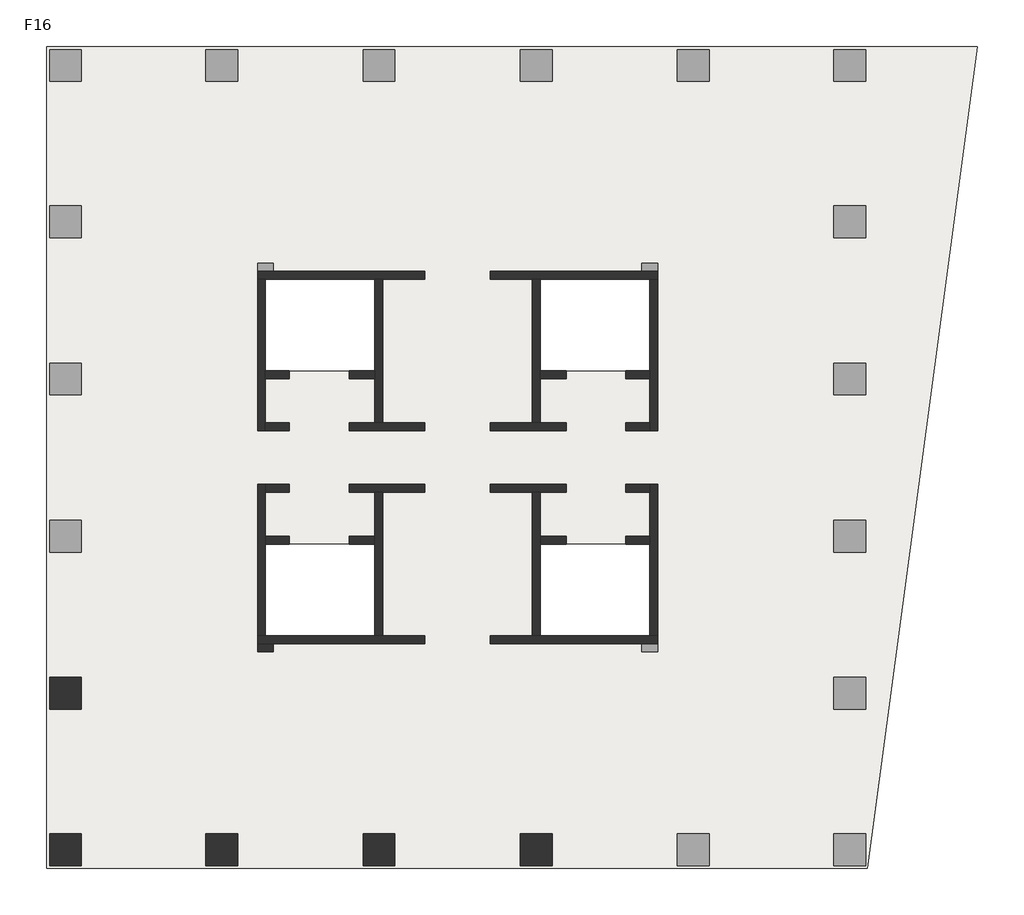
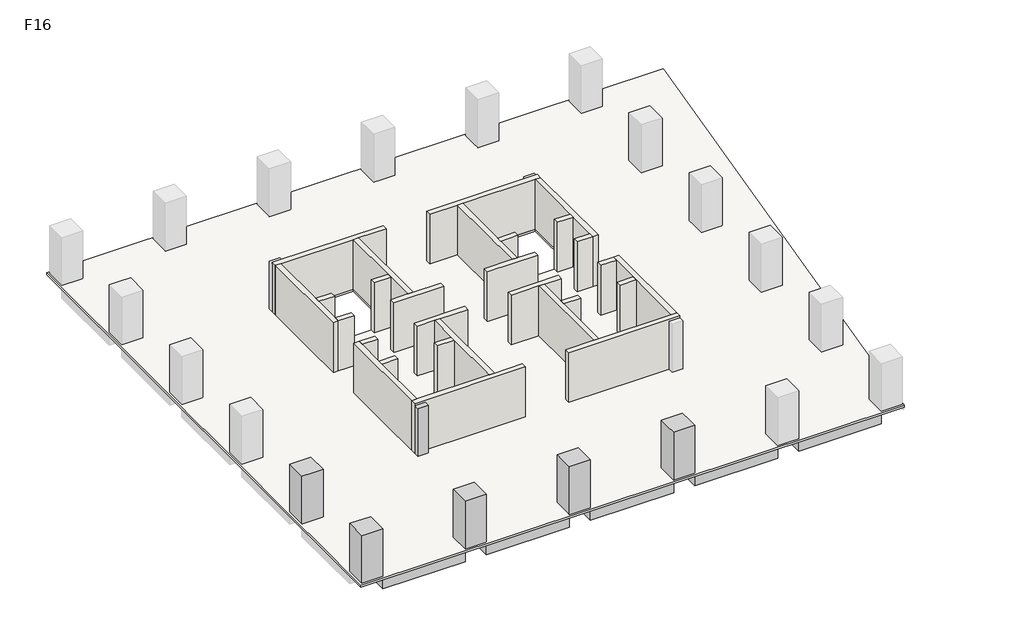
# One storey, part 1 of 2: 28 walls, 6 columns, 5 beams, 1 slab.
"""IFC4 building model written with IfcOpenShell, lengths in millimetres."""

from ifc_helpers import new_model, si_unit, frame, origin, place, context, project, spatial, polyline, outline, extrude, faceted_brep, element, save

model = new_model("IFC4")

# Units and contexts
model_context = context("Model", 3, world=origin())
ifc_project = project(units=[si_unit("LENGTHUNIT", "METRE", prefix="MILLI")], contexts=[model_context])

# Site, building, storey
site = spatial("IfcSite", under=ifc_project)
building = spatial("IfcBuilding", under=site)
storey = spatial("IfcBuildingStorey", under=building, Name="F16", Elevation=64000.0)

# Beams
placement = place(None, origin())
element("IfcBeam", 1, ObjectType="混凝土 - 矩形梁 : KL(5)-800x1000", at=placement, inside=storey, context=model_context, shape_type="SweptSolid", body=[
    extrude(outline(polyline([(-12472.6742169, -13948.9501342), (-12472.6742169, -13148.9501342), (-6222.6742169, -13148.9501342), (-6222.6742169, -13948.9501342), (-12472.6742169, -13948.9501342)])), frame((0.0, 0.0, 63000.0), z_axis=(0.0, 0.0, 1.0), x_axis=(1.0, 0.0, 0.0)), (0.0, 0.0, 1.0), 840.0),
    extrude(outline(polyline([(25327.3257831, -13148.9501342), (25327.3257831, -13948.9501342), (19077.3257831, -13948.9501342), (19077.3257831, -13148.9501342), (25327.3257831, -13148.9501342)])), frame((0.0, 0.0, 63000.0), z_axis=(0.0, 0.0, 1.0), x_axis=(1.0, 0.0, 0.0)), (0.0, 0.0, 1.0), 840.0),
    extrude(outline(polyline([(-4622.6742169, -13948.9501342), (-4622.6742169, -13148.9501342), (1677.3257831, -13148.9501342), (1677.3257831, -13948.9501342), (-4622.6742169, -13948.9501342)])), frame((0.0, 0.0, 63000.0), z_axis=(0.0, 0.0, 1.0), x_axis=(1.0, 0.0, 0.0)), (0.0, 0.0, 1.0), 840.0),
    extrude(outline(polyline([(3277.3257831, -13948.9501342), (3277.3257831, -13148.9501342), (9577.3257831, -13148.9501342), (9577.3257831, -13948.9501342), (3277.3257831, -13948.9501342)])), frame((0.0, 0.0, 63000.0), z_axis=(0.0, 0.0, 1.0), x_axis=(1.0, 0.0, 0.0)), (0.0, 0.0, 1.0), 840.0),
    extrude(outline(polyline([(11177.3257831, -13948.9501342), (11177.3257831, -13148.9501342), (17477.3257831, -13148.9501342), (17477.3257831, -13948.9501342), (11177.3257831, -13948.9501342)])), frame((0.0, 0.0, 63000.0), z_axis=(0.0, 0.0, 1.0), x_axis=(1.0, 0.0, 0.0)), (0.0, 0.0, 1.0), 840.0),
])
element("IfcBeam", 2, ObjectType="混凝土 - 矩形梁 : L1-800x500", at=placement, inside=storey, context=model_context, shape_type="Brep", body=[
    faceted_brep([(-12472.6742169, -5512.1353397, 63500.0), (-3746.9473979, -3341.556529, 63500.0), (-3173.6696907, -3198.9501342, 63500.0), (-3173.6696907, -3198.9501342, 63840.0), (-3746.9473979, -3341.556529, 63840.0), (-12472.6742169, -5512.1353397, 63840.0), (-3622.6742169, -3198.9501342, 63500.0), (-12472.6742169, -4687.7549784, 63500.0), (-3622.6742169, -2486.2624411, 63500.0), (-3622.6742169, -2798.9501342, 63500.0), (-12472.6742169, -4687.7549784, 63840.0), (-3622.6742169, -2486.2624411, 63840.0), (-3622.6742169, -3198.9501342, 63840.0)], [[[0, 1, 2, 3, 4, 5]], [[6, 2, 1, 0, 7, 8, 9]], [[8, 7, 10, 11]], [[2, 6, 12, 3]], [[9, 8, 11, 12, 6]], [[7, 0, 5, 10]], [[5, 4, 3, 12, 11, 10]]]),
])
element("IfcBeam", 3, ObjectType="混凝土 - 矩形梁 : L1-800x500", at=placement, inside=storey, context=model_context, shape_type="SweptSolid", body=[
    extrude(outline(polyline([(-3746.9473979, -3341.556529), (-3173.6696907, -3198.9501342), (-2898.7618154, -3198.9501342), (-4843.6893517, -12348.9501342), (-5661.5624638, -12348.9501342), (-3746.9473979, -3341.556529)])), frame((0.0, 0.0, 63500.0), z_axis=(0.0, 0.0, 1.0), x_axis=(1.0, 0.0, 0.0)), (0.0, 0.0, 1.0), 340.0),
])
element("IfcBeam", 4, ObjectType="混凝土 - 矩形梁 : L1-800x500", at=placement, inside=storey, context=model_context, shape_type="SweptSolid", body=[
    extrude(outline(polyline([(2877.3257831, -12348.9501342), (2077.3257831, -12348.9501342), (2077.3257831, -2798.9501342), (2877.3257831, -2798.9501342), (2877.3257831, -12348.9501342)])), frame((0.0, 0.0, 63500.0), z_axis=(0.0, 0.0, 1.0), x_axis=(1.0, 0.0, 0.0)), (0.0, 0.0, 1.0), 340.0),
])
element("IfcBeam", 5, ObjectType="混凝土 - 矩形梁 : L1-800x500", at=placement, inside=storey, context=model_context, shape_type="SweptSolid", body=[
    extrude(outline(polyline([(10777.3257831, -12348.9501342), (9977.3257831, -12348.9501342), (9977.3257831, -2798.9501342), (10777.3257831, -2798.9501342), (10777.3257831, -12348.9501342)])), frame((0.0, 0.0, 63500.0), z_axis=(0.0, 0.0, 1.0), x_axis=(1.0, 0.0, 0.0)), (0.0, 0.0, 1.0), 340.0),
])

# Columns
element("IfcColumn", 6, ObjectType="混凝土 - 矩形 - 柱 : Z1-1600x1600", at=placement, inside=storey, context=model_context, shape_type="Brep", body=[
    faceted_brep([(-12472.6742169, -4498.9501342, 64000.0), (-12472.6742169, -6098.9501342, 64000.0), (-14072.6742169, -6098.9501342, 64000.0), (-14072.6742169, -4498.9501342, 64000.0), (-12472.6742169, -4498.9501342, 67840.0), (-12472.6742169, -6098.9501342, 67840.0), (-13272.6742169, -6098.9501342, 67840.0), (-14072.6742169, -6098.9501342, 67840.0), (-14072.6742169, -6098.9501342, 67000.0), (-14072.6742169, -4498.9501342, 67840.0), (-14072.6742169, -4498.9501342, 67000.0), (-13272.6742169, -4498.9501342, 67840.0)], [[[0, 1, 2, 3]], [[1, 0, 4, 5]], [[2, 1, 5, 6, 7, 8]], [[3, 2, 8, 7, 9, 10]], [[0, 3, 10, 9, 11, 4]], [[5, 4, 11, 9, 7, 6]]]),
])
element("IfcColumn", 7, ObjectType="混凝土 - 矩形 - 柱 : Z1-1600x1600", at=placement, inside=storey, context=model_context, shape_type="SweptSolid", body=[
    extrude(outline(polyline([(-12472.6742169, -12348.9501342), (-12472.6742169, -13948.9501342), (-14072.6742169, -13948.9501342), (-14072.6742169, -12348.9501342), (-12472.6742169, -12348.9501342)])), frame((0.0, 0.0, 64000.0), z_axis=(0.0, 0.0, 1.0), x_axis=(1.0, 0.0, 0.0)), (0.0, 0.0, 1.0), 3840.0),
])
element("IfcColumn", 8, ObjectType="混凝土 - 矩形 - 柱 : Z1-1600x1600", at=placement, inside=storey, context=model_context, shape_type="Brep", body=[
    faceted_brep([(-4622.6742169, -12348.9501342, 64000.0), (-4622.6742169, -13948.9501342, 64000.0), (-6222.6742169, -13948.9501342, 64000.0), (-6222.6742169, -12348.9501342, 64000.0), (-4622.6742169, -12348.9501342, 67840.0), (-4622.6742169, -13148.9501342, 67840.0), (-4622.6742169, -13948.9501342, 67840.0), (-4622.6742169, -13948.9501342, 67000.0), (-6222.6742169, -13948.9501342, 67840.0), (-6222.6742169, -13948.9501342, 67000.0), (-6222.6742169, -13148.9501342, 67840.0), (-6222.6742169, -12348.9501342, 67840.0)], [[[0, 1, 2, 3]], [[1, 0, 4, 5, 6, 7]], [[2, 1, 7, 6, 8, 9]], [[3, 2, 9, 8, 10, 11]], [[0, 3, 11, 4]], [[6, 5, 4, 11, 10, 8]]]),
])
element("IfcColumn", 9, ObjectType="混凝土 - 矩形 - 柱 : Z1-1600x1600", at=placement, inside=storey, context=model_context, shape_type="Brep", body=[
    faceted_brep([(3277.3257831, -12348.9501342, 64000.0), (3277.3257831, -13948.9501342, 64000.0), (1677.3257831, -13948.9501342, 64000.0), (1677.3257831, -12348.9501342, 64000.0), (3277.3257831, -12348.9501342, 67840.0), (3277.3257831, -13148.9501342, 67840.0), (3277.3257831, -13948.9501342, 67840.0), (3277.3257831, -13948.9501342, 67000.0), (1677.3257831, -13948.9501342, 67840.0), (1677.3257831, -13948.9501342, 67000.0), (1677.3257831, -13148.9501342, 67840.0), (1677.3257831, -12348.9501342, 67840.0)], [[[0, 1, 2, 3]], [[1, 0, 4, 5, 6, 7]], [[2, 1, 7, 6, 8, 9]], [[3, 2, 9, 8, 10, 11]], [[0, 3, 11, 4]], [[6, 5, 4, 11, 10, 8]]]),
])
element("IfcColumn", 10, ObjectType="混凝土 - 矩形 - 柱 : Z1-1600x1600", at=placement, inside=storey, context=model_context, shape_type="Brep", body=[
    faceted_brep([(11177.3257831, -12348.9501342, 64000.0), (11177.3257831, -13948.9501342, 64000.0), (9577.3257831, -13948.9501342, 64000.0), (9577.3257831, -12348.9501342, 64000.0), (11177.3257831, -12348.9501342, 67840.0), (11177.3257831, -13148.9501342, 67840.0), (11177.3257831, -13948.9501342, 67840.0), (11177.3257831, -13948.9501342, 67000.0), (9577.3257831, -13948.9501342, 67840.0), (9577.3257831, -13948.9501342, 67000.0), (9577.3257831, -13148.9501342, 67840.0), (9577.3257831, -12348.9501342, 67840.0)], [[[0, 1, 2, 3]], [[1, 0, 4, 5, 6, 7]], [[2, 1, 7, 6, 8, 9]], [[3, 2, 9, 8, 10, 11]], [[0, 3, 11, 4]], [[6, 5, 4, 11, 10, 8]]]),
])
element("IfcColumn", 11, ObjectType="混凝土 - 矩形 - 柱 : Z2-800x800", at=placement, inside=storey, context=model_context, shape_type="SweptSolid", body=[
    extrude(outline(polyline([(-2822.6742169, -3198.9501342), (-3622.6742169, -3198.9501342), (-3622.6742169, -2798.9501342), (-2822.6742169, -2798.9501342), (-2822.6742169, -3198.9501342)])), frame((0.0, 0.0, 64000.0), z_axis=(0.0, 0.0, 1.0), x_axis=(1.0, 0.0, 0.0)), (0.0, 0.0, 1.0), 3840.0),
])

# Slab
element("IfcSlab", 12, ObjectType="LB-160", at=placement, inside=storey, context=model_context, shape_type="Brep", body=[
    faceted_brep([(32549.4477343, 27201.0498658, 63840.0), (32422.0087099, 26251.0498658, 63840.0), (27029.3257831, -13948.9501342, 63840.0), (27011.0393465, -14085.2672073, 63840.0), (-14222.6742169, -14085.2672073, 63840.0), (-14222.6742169, 27201.0498658, 63840.0), (2277.3257831, 15501.0498658, 63840.0), (-3222.6742169, 15501.0498658, 63840.0), (-3222.6742169, 10901.0498658, 63840.0), (2277.3257831, 10901.0498658, 63840.0), (2277.3257831, 2201.0498658, 63840.0), (-3222.6742169, 2201.0498658, 63840.0), (-3222.6742169, -2398.9501342, 63840.0), (2277.3257831, -2398.9501342, 63840.0), (16077.3257831, 2201.0498658, 63840.0), (10577.3257831, 2201.0498658, 63840.0), (10577.3257831, -2398.9501342, 63840.0), (16077.3257831, -2398.9501342, 63840.0), (16077.3257831, 15501.0498658, 63840.0), (10577.3257831, 15501.0498658, 63840.0), (10577.3257831, 10901.0498658, 63840.0), (16077.3257831, 10901.0498658, 63840.0), (32549.4477343, 27201.0498658, 64000.0), (-14222.6742169, 27201.0498658, 64000.0), (-14222.6742169, -14085.2672073, 64000.0), (27011.0393465, -14085.2672073, 64000.0), (2277.3257831, 15501.0498658, 64000.0), (2277.3257831, 10901.0498658, 64000.0), (-3222.6742169, 10901.0498658, 64000.0), (-3222.6742169, 15501.0498658, 64000.0), (2277.3257831, 2201.0498658, 64000.0), (2277.3257831, -2398.9501342, 64000.0), (-3222.6742169, -2398.9501342, 64000.0), (-3222.6742169, 2201.0498658, 64000.0), (16077.3257831, 2201.0498658, 64000.0), (16077.3257831, -2398.9501342, 64000.0), (10577.3257831, -2398.9501342, 64000.0), (10577.3257831, 2201.0498658, 64000.0), (16077.3257831, 15501.0498658, 64000.0), (16077.3257831, 10901.0498658, 64000.0), (10577.3257831, 10901.0498658, 64000.0), (10577.3257831, 15501.0498658, 64000.0)], [[[0, 1, 2, 3, 4, 5], [6, 7, 8, 9], [10, 11, 12, 13], [14, 15, 16, 17], [18, 19, 20, 21]], [[22, 23, 24, 25], [26, 27, 28, 29], [30, 31, 32, 33], [34, 35, 36, 37], [38, 39, 40, 41]], [[3, 2, 1, 0, 22, 25]], [[4, 3, 25, 24]], [[5, 4, 24, 23]], [[0, 5, 23, 22]], [[7, 6, 26, 29]], [[8, 7, 29, 28]], [[9, 8, 28, 27]], [[6, 9, 27, 26]], [[11, 10, 30, 33]], [[12, 11, 33, 32]], [[13, 12, 32, 31]], [[10, 13, 31, 30]], [[15, 14, 34, 37]], [[16, 15, 37, 36]], [[17, 16, 36, 35]], [[14, 17, 35, 34]], [[19, 18, 38, 41]], [[20, 19, 41, 40]], [[21, 20, 40, 39]], [[18, 21, 39, 38]]]),
])

# Walls
element("IfcWall", 13, ObjectType="剪力墙-400", at=placement, inside=storey, context=model_context, shape_type="Brep", body=[
    faceted_brep([(-3622.6742169, 15501.0498658, 64000.0), (-3222.6742169, 15501.0498658, 64000.0), (2277.3257831, 15501.0498658, 64000.0), (2677.3257831, 15501.0498658, 64000.0), (4777.3257831, 15501.0498658, 64000.0), (4777.3257831, 15501.0498658, 68000.0), (2677.3257831, 15501.0498658, 68000.0), (2277.3257831, 15501.0498658, 68000.0), (-3222.6742169, 15501.0498658, 68000.0), (-3622.6742169, 15501.0498658, 68000.0), (-3622.6742169, 15901.0498658, 64000.0), (-3622.6742169, 15901.0498658, 67840.0), (-3622.6742169, 15901.0498658, 68000.0), (4777.3257831, 15901.0498658, 68000.0), (4777.3257831, 15901.0498658, 64000.0), (-2822.6742169, 15901.0498658, 64000.0)], [[[0, 1, 2, 3, 4, 5, 6, 7, 8, 9]], [[10, 11, 12, 13, 14, 15]], [[4, 3, 2, 1, 0, 10, 15, 14]], [[5, 4, 14, 13]], [[9, 8, 7, 6, 5, 13, 12]], [[0, 9, 12, 11, 10]]]),
])
element("IfcWall", 14, ObjectType="剪力墙-400", at=placement, inside=storey, context=model_context, shape_type="Brep", body=[
    faceted_brep([(2277.3257831, 15501.0498658, 64000.0), (2277.3257831, 10901.0498658, 64000.0), (2277.3257831, 10501.0498658, 64000.0), (2277.3257831, 8301.0498658, 64000.0), (2277.3257831, 8301.0498658, 68000.0), (2277.3257831, 10501.0498658, 68000.0), (2277.3257831, 10901.0498658, 68000.0), (2277.3257831, 15501.0498658, 68000.0), (2677.3257831, 15501.0498658, 64000.0), (2677.3257831, 15501.0498658, 68000.0), (2677.3257831, 8301.0498658, 68000.0), (2677.3257831, 8301.0498658, 64000.0)], [[[0, 1, 2, 3, 4, 5, 6, 7]], [[8, 9, 10, 11]], [[3, 2, 1, 0, 8, 11]], [[7, 6, 5, 4, 10, 9]], [[0, 7, 9, 8]], [[4, 3, 11, 10]]]),
])
element("IfcWall", 15, ObjectType="剪力墙-400", at=placement, inside=storey, context=model_context, shape_type="Brep", body=[
    faceted_brep([(-3622.6742169, 15501.0498658, 64000.0), (-3622.6742169, 7901.0498658, 64000.0), (-3622.6742169, 7901.0498658, 68000.0), (-3622.6742169, 15501.0498658, 68000.0), (-3222.6742169, 15501.0498658, 64000.0), (-3222.6742169, 15501.0498658, 68000.0), (-3222.6742169, 10901.0498658, 68000.0), (-3222.6742169, 10501.0498658, 68000.0), (-3222.6742169, 8301.0498658, 68000.0), (-3222.6742169, 7901.0498658, 68000.0), (-3222.6742169, 7901.0498658, 64000.0), (-3222.6742169, 8301.0498658, 64000.0), (-3222.6742169, 10501.0498658, 64000.0), (-3222.6742169, 10901.0498658, 64000.0)], [[[0, 1, 2, 3]], [[4, 5, 6, 7, 8, 9, 10, 11, 12, 13]], [[1, 0, 4, 13, 12, 11, 10]], [[3, 2, 9, 8, 7, 6, 5]], [[0, 3, 5, 4]], [[2, 1, 10, 9]]]),
])
element("IfcWall", 16, ObjectType="剪力墙-400", at=placement, inside=storey, context=model_context, shape_type="SweptSolid", body=[
    extrude(outline(polyline([(-2022.6742169, 7901.0498658), (-3222.6742169, 7901.0498658), (-3222.6742169, 8301.0498658), (-2022.6742169, 8301.0498658), (-2022.6742169, 7901.0498658)])), frame((0.0, 0.0, 64000.0), z_axis=(0.0, 0.0, 1.0), x_axis=(1.0, 0.0, 0.0)), (0.0, 0.0, 1.0), 4000.0),
])
element("IfcWall", 17, ObjectType="剪力墙-400", at=placement, inside=storey, context=model_context, shape_type="Brep", body=[
    faceted_brep([(977.3257831, 7901.0498658, 64000.0), (4777.3257831, 7901.0498658, 64000.0), (4777.3257831, 7901.0498658, 68000.0), (977.3257831, 7901.0498658, 68000.0), (977.3257831, 8301.0498658, 64000.0), (977.3257831, 8301.0498658, 68000.0), (2277.3257831, 8301.0498658, 68000.0), (2677.3257831, 8301.0498658, 68000.0), (4777.3257831, 8301.0498658, 68000.0), (4777.3257831, 8301.0498658, 64000.0), (2677.3257831, 8301.0498658, 64000.0), (2277.3257831, 8301.0498658, 64000.0)], [[[0, 1, 2, 3]], [[4, 5, 6, 7, 8, 9, 10, 11]], [[1, 0, 4, 11, 10, 9]], [[2, 1, 9, 8]], [[3, 2, 8, 7, 6, 5]], [[0, 3, 5, 4]]]),
])
element("IfcWall", 18, ObjectType="剪力墙-400", at=placement, inside=storey, context=model_context, shape_type="SweptSolid", body=[
    extrude(outline(polyline([(-2022.6742169, 10501.0498658), (-3222.6742169, 10501.0498658), (-3222.6742169, 10901.0498658), (-2022.6742169, 10901.0498658), (-2022.6742169, 10501.0498658)])), frame((0.0, 0.0, 64000.0), z_axis=(0.0, 0.0, 1.0), x_axis=(1.0, 0.0, 0.0)), (0.0, 0.0, 1.0), 4000.0),
])
element("IfcWall", 19, ObjectType="剪力墙-400", at=placement, inside=storey, context=model_context, shape_type="SweptSolid", body=[
    extrude(outline(polyline([(2277.3257831, 10501.0498658), (977.3257831, 10501.0498658), (977.3257831, 10901.0498658), (2277.3257831, 10901.0498658), (2277.3257831, 10501.0498658)])), frame((0.0, 0.0, 64000.0), z_axis=(0.0, 0.0, 1.0), x_axis=(1.0, 0.0, 0.0)), (0.0, 0.0, 1.0), 4000.0),
])
element("IfcWall", 20, ObjectType="剪力墙-400", at=placement, inside=storey, context=model_context, shape_type="Brep", body=[
    faceted_brep([(16477.3257831, 15901.0498658, 64000.0), (15677.3257831, 15901.0498658, 64000.0), (8077.3257831, 15901.0498658, 64000.0), (8077.3257831, 15901.0498658, 68000.0), (16477.3257831, 15901.0498658, 68000.0), (16477.3257831, 15901.0498658, 67840.0), (16477.3257831, 15501.0498658, 64000.0), (16477.3257831, 15501.0498658, 68000.0), (16077.3257831, 15501.0498658, 68000.0), (10577.3257831, 15501.0498658, 68000.0), (10177.3257831, 15501.0498658, 68000.0), (8077.3257831, 15501.0498658, 68000.0), (8077.3257831, 15501.0498658, 64000.0), (10177.3257831, 15501.0498658, 64000.0), (10577.3257831, 15501.0498658, 64000.0), (16077.3257831, 15501.0498658, 64000.0)], [[[0, 1, 2, 3, 4, 5]], [[6, 7, 8, 9, 10, 11, 12, 13, 14, 15]], [[2, 1, 0, 6, 15, 14, 13, 12]], [[3, 2, 12, 11]], [[4, 3, 11, 10, 9, 8, 7]], [[0, 5, 4, 7, 6]]]),
])
element("IfcWall", 21, ObjectType="剪力墙-400", at=placement, inside=storey, context=model_context, shape_type="Brep", body=[
    faceted_brep([(10177.3257831, 15501.0498658, 64000.0), (10177.3257831, 8301.0498658, 64000.0), (10177.3257831, 8301.0498658, 68000.0), (10177.3257831, 15501.0498658, 68000.0), (10577.3257831, 15501.0498658, 64000.0), (10577.3257831, 15501.0498658, 68000.0), (10577.3257831, 10901.0498658, 68000.0), (10577.3257831, 10501.0498658, 68000.0), (10577.3257831, 8301.0498658, 68000.0), (10577.3257831, 8301.0498658, 64000.0), (10577.3257831, 10501.0498658, 64000.0), (10577.3257831, 10901.0498658, 64000.0)], [[[0, 1, 2, 3]], [[4, 5, 6, 7, 8, 9, 10, 11]], [[1, 0, 4, 11, 10, 9]], [[3, 2, 8, 7, 6, 5]], [[0, 3, 5, 4]], [[2, 1, 9, 8]]]),
])
element("IfcWall", 22, ObjectType="剪力墙-400", at=placement, inside=storey, context=model_context, shape_type="Brep", body=[
    faceted_brep([(16077.3257831, 15501.0498658, 64000.0), (16077.3257831, 10901.0498658, 64000.0), (16077.3257831, 10501.0498658, 64000.0), (16077.3257831, 8301.0498658, 64000.0), (16077.3257831, 7901.0498658, 64000.0), (16077.3257831, 7901.0498658, 68000.0), (16077.3257831, 8301.0498658, 68000.0), (16077.3257831, 10501.0498658, 68000.0), (16077.3257831, 10901.0498658, 68000.0), (16077.3257831, 15501.0498658, 68000.0), (16477.3257831, 15501.0498658, 64000.0), (16477.3257831, 15501.0498658, 68000.0), (16477.3257831, 7901.0498658, 68000.0), (16477.3257831, 7901.0498658, 64000.0)], [[[0, 1, 2, 3, 4, 5, 6, 7, 8, 9]], [[10, 11, 12, 13]], [[4, 3, 2, 1, 0, 10, 13]], [[9, 8, 7, 6, 5, 12, 11]], [[0, 9, 11, 10]], [[5, 4, 13, 12]]]),
])
element("IfcWall", 23, ObjectType="剪力墙-400", at=placement, inside=storey, context=model_context, shape_type="SweptSolid", body=[
    extrude(outline(polyline([(14877.3257831, 8301.0498658), (16077.3257831, 8301.0498658), (16077.3257831, 7901.0498658), (14877.3257831, 7901.0498658), (14877.3257831, 8301.0498658)])), frame((0.0, 0.0, 64000.0), z_axis=(0.0, 0.0, 1.0), x_axis=(1.0, 0.0, 0.0)), (0.0, 0.0, 1.0), 4000.0),
])
element("IfcWall", 24, ObjectType="剪力墙-400", at=placement, inside=storey, context=model_context, shape_type="Brep", body=[
    faceted_brep([(11877.3257831, 8301.0498658, 64000.0), (10577.3257831, 8301.0498658, 64000.0), (10177.3257831, 8301.0498658, 64000.0), (8077.3257831, 8301.0498658, 64000.0), (8077.3257831, 8301.0498658, 68000.0), (10177.3257831, 8301.0498658, 68000.0), (10577.3257831, 8301.0498658, 68000.0), (11877.3257831, 8301.0498658, 68000.0), (11877.3257831, 7901.0498658, 64000.0), (11877.3257831, 7901.0498658, 68000.0), (8077.3257831, 7901.0498658, 68000.0), (8077.3257831, 7901.0498658, 64000.0)], [[[0, 1, 2, 3, 4, 5, 6, 7]], [[8, 9, 10, 11]], [[3, 2, 1, 0, 8, 11]], [[4, 3, 11, 10]], [[7, 6, 5, 4, 10, 9]], [[0, 7, 9, 8]]]),
])
element("IfcWall", 25, ObjectType="剪力墙-400", at=placement, inside=storey, context=model_context, shape_type="SweptSolid", body=[
    extrude(outline(polyline([(14877.3257831, 10901.0498658), (16077.3257831, 10901.0498658), (16077.3257831, 10501.0498658), (14877.3257831, 10501.0498658), (14877.3257831, 10901.0498658)])), frame((0.0, 0.0, 64000.0), z_axis=(0.0, 0.0, 1.0), x_axis=(1.0, 0.0, 0.0)), (0.0, 0.0, 1.0), 4000.0),
])
element("IfcWall", 26, ObjectType="剪力墙-400", at=placement, inside=storey, context=model_context, shape_type="SweptSolid", body=[
    extrude(outline(polyline([(10577.3257831, 10901.0498658), (11877.3257831, 10901.0498658), (11877.3257831, 10501.0498658), (10577.3257831, 10501.0498658), (10577.3257831, 10901.0498658)])), frame((0.0, 0.0, 64000.0), z_axis=(0.0, 0.0, 1.0), x_axis=(1.0, 0.0, 0.0)), (0.0, 0.0, 1.0), 4000.0),
])
element("IfcWall", 27, ObjectType="剪力墙-400", at=placement, inside=storey, context=model_context, shape_type="Brep", body=[
    faceted_brep([(-3622.6742169, -2798.9501342, 64000.0), (-2822.6742169, -2798.9501342, 64000.0), (4777.3257831, -2798.9501342, 64000.0), (4777.3257831, -2798.9501342, 68000.0), (-3622.6742169, -2798.9501342, 68000.0), (-3622.6742169, -2798.9501342, 67840.0), (-3622.6742169, -2398.9501342, 64000.0), (-3622.6742169, -2398.9501342, 68000.0), (-3222.6742169, -2398.9501342, 68000.0), (2277.3257831, -2398.9501342, 68000.0), (2677.3257831, -2398.9501342, 68000.0), (4777.3257831, -2398.9501342, 68000.0), (4777.3257831, -2398.9501342, 64000.0), (2677.3257831, -2398.9501342, 64000.0), (2277.3257831, -2398.9501342, 64000.0), (-3222.6742169, -2398.9501342, 64000.0)], [[[0, 1, 2, 3, 4, 5]], [[6, 7, 8, 9, 10, 11, 12, 13, 14, 15]], [[2, 1, 0, 6, 15, 14, 13, 12]], [[3, 2, 12, 11]], [[4, 3, 11, 10, 9, 8, 7]], [[0, 5, 4, 7, 6]]]),
])
element("IfcWall", 28, ObjectType="剪力墙-400", at=placement, inside=storey, context=model_context, shape_type="Brep", body=[
    faceted_brep([(2677.3257831, -2398.9501342, 64000.0), (2677.3257831, 4801.0498658, 64000.0), (2677.3257831, 4801.0498658, 68000.0), (2677.3257831, -2398.9501342, 68000.0), (2277.3257831, -2398.9501342, 64000.0), (2277.3257831, -2398.9501342, 68000.0), (2277.3257831, 2201.0498658, 68000.0), (2277.3257831, 2601.0498658, 68000.0), (2277.3257831, 4801.0498658, 68000.0), (2277.3257831, 4801.0498658, 64000.0), (2277.3257831, 2601.0498658, 64000.0), (2277.3257831, 2201.0498658, 64000.0)], [[[0, 1, 2, 3]], [[4, 5, 6, 7, 8, 9, 10, 11]], [[1, 0, 4, 11, 10, 9]], [[3, 2, 8, 7, 6, 5]], [[0, 3, 5, 4]], [[2, 1, 9, 8]]]),
])
element("IfcWall", 29, ObjectType="剪力墙-400", at=placement, inside=storey, context=model_context, shape_type="Brep", body=[
    faceted_brep([(-3222.6742169, -2398.9501342, 64000.0), (-3222.6742169, 2201.0498658, 64000.0), (-3222.6742169, 2601.0498658, 64000.0), (-3222.6742169, 4801.0498658, 64000.0), (-3222.6742169, 5201.0498658, 64000.0), (-3222.6742169, 5201.0498658, 68000.0), (-3222.6742169, 4801.0498658, 68000.0), (-3222.6742169, 2601.0498658, 68000.0), (-3222.6742169, 2201.0498658, 68000.0), (-3222.6742169, -2398.9501342, 68000.0), (-3622.6742169, -2398.9501342, 64000.0), (-3622.6742169, -2398.9501342, 68000.0), (-3622.6742169, 5201.0498658, 68000.0), (-3622.6742169, 5201.0498658, 64000.0)], [[[0, 1, 2, 3, 4, 5, 6, 7, 8, 9]], [[10, 11, 12, 13]], [[4, 3, 2, 1, 0, 10, 13]], [[9, 8, 7, 6, 5, 12, 11]], [[0, 9, 11, 10]], [[5, 4, 13, 12]]]),
])
element("IfcWall", 30, ObjectType="剪力墙-400", at=placement, inside=storey, context=model_context, shape_type="SweptSolid", body=[
    extrude(outline(polyline([(-2022.6742169, 4801.0498658), (-3222.6742169, 4801.0498658), (-3222.6742169, 5201.0498658), (-2022.6742169, 5201.0498658), (-2022.6742169, 4801.0498658)])), frame((0.0, 0.0, 64000.0), z_axis=(0.0, 0.0, 1.0), x_axis=(1.0, 0.0, 0.0)), (0.0, 0.0, 1.0), 4000.0),
])
element("IfcWall", 31, ObjectType="剪力墙-400", at=placement, inside=storey, context=model_context, shape_type="Brep", body=[
    faceted_brep([(977.3257831, 4801.0498658, 64000.0), (2277.3257831, 4801.0498658, 64000.0), (2677.3257831, 4801.0498658, 64000.0), (4777.3257831, 4801.0498658, 64000.0), (4777.3257831, 4801.0498658, 68000.0), (2677.3257831, 4801.0498658, 68000.0), (2277.3257831, 4801.0498658, 68000.0), (977.3257831, 4801.0498658, 68000.0), (977.3257831, 5201.0498658, 64000.0), (977.3257831, 5201.0498658, 68000.0), (4777.3257831, 5201.0498658, 68000.0), (4777.3257831, 5201.0498658, 64000.0)], [[[0, 1, 2, 3, 4, 5, 6, 7]], [[8, 9, 10, 11]], [[3, 2, 1, 0, 8, 11]], [[4, 3, 11, 10]], [[7, 6, 5, 4, 10, 9]], [[0, 7, 9, 8]]]),
])
element("IfcWall", 32, ObjectType="剪力墙-400", at=placement, inside=storey, context=model_context, shape_type="SweptSolid", body=[
    extrude(outline(polyline([(-2022.6742169, 2201.0498658), (-3222.6742169, 2201.0498658), (-3222.6742169, 2601.0498658), (-2022.6742169, 2601.0498658), (-2022.6742169, 2201.0498658)])), frame((0.0, 0.0, 64000.0), z_axis=(0.0, 0.0, 1.0), x_axis=(1.0, 0.0, 0.0)), (0.0, 0.0, 1.0), 4000.0),
])
element("IfcWall", 33, ObjectType="剪力墙-400", at=placement, inside=storey, context=model_context, shape_type="SweptSolid", body=[
    extrude(outline(polyline([(2277.3257831, 2201.0498658), (977.3257831, 2201.0498658), (977.3257831, 2601.0498658), (2277.3257831, 2601.0498658), (2277.3257831, 2201.0498658)])), frame((0.0, 0.0, 64000.0), z_axis=(0.0, 0.0, 1.0), x_axis=(1.0, 0.0, 0.0)), (0.0, 0.0, 1.0), 4000.0),
])
element("IfcWall", 34, ObjectType="剪力墙-400", at=placement, inside=storey, context=model_context, shape_type="Brep", body=[
    faceted_brep([(16477.3257831, -2398.9501342, 64000.0), (16077.3257831, -2398.9501342, 64000.0), (10577.3257831, -2398.9501342, 64000.0), (10177.3257831, -2398.9501342, 64000.0), (8077.3257831, -2398.9501342, 64000.0), (8077.3257831, -2398.9501342, 68000.0), (10177.3257831, -2398.9501342, 68000.0), (10577.3257831, -2398.9501342, 68000.0), (16077.3257831, -2398.9501342, 68000.0), (16477.3257831, -2398.9501342, 68000.0), (16477.3257831, -2798.9501342, 64000.0), (16477.3257831, -2798.9501342, 67840.0), (16477.3257831, -2798.9501342, 68000.0), (8077.3257831, -2798.9501342, 68000.0), (8077.3257831, -2798.9501342, 64000.0), (15677.3257831, -2798.9501342, 64000.0)], [[[0, 1, 2, 3, 4, 5, 6, 7, 8, 9]], [[10, 11, 12, 13, 14, 15]], [[4, 3, 2, 1, 0, 10, 15, 14]], [[5, 4, 14, 13]], [[9, 8, 7, 6, 5, 13, 12]], [[0, 9, 12, 11, 10]]]),
])
element("IfcWall", 35, ObjectType="剪力墙-400", at=placement, inside=storey, context=model_context, shape_type="Brep", body=[
    faceted_brep([(10577.3257831, -2398.9501342, 64000.0), (10577.3257831, 2201.0498658, 64000.0), (10577.3257831, 2601.0498658, 64000.0), (10577.3257831, 4801.0498658, 64000.0), (10577.3257831, 4801.0498658, 68000.0), (10577.3257831, 2601.0498658, 68000.0), (10577.3257831, 2201.0498658, 68000.0), (10577.3257831, -2398.9501342, 68000.0), (10177.3257831, -2398.9501342, 64000.0), (10177.3257831, -2398.9501342, 68000.0), (10177.3257831, 4801.0498658, 68000.0), (10177.3257831, 4801.0498658, 64000.0)], [[[0, 1, 2, 3, 4, 5, 6, 7]], [[8, 9, 10, 11]], [[3, 2, 1, 0, 8, 11]], [[7, 6, 5, 4, 10, 9]], [[0, 7, 9, 8]], [[4, 3, 11, 10]]]),
])
element("IfcWall", 36, ObjectType="剪力墙-400", at=placement, inside=storey, context=model_context, shape_type="Brep", body=[
    faceted_brep([(16477.3257831, -2398.9501342, 64000.0), (16477.3257831, 5201.0498658, 64000.0), (16477.3257831, 5201.0498658, 68000.0), (16477.3257831, -2398.9501342, 68000.0), (16077.3257831, -2398.9501342, 64000.0), (16077.3257831, -2398.9501342, 68000.0), (16077.3257831, 2201.0498658, 68000.0), (16077.3257831, 2601.0498658, 68000.0), (16077.3257831, 4801.0498658, 68000.0), (16077.3257831, 5201.0498658, 68000.0), (16077.3257831, 5201.0498658, 64000.0), (16077.3257831, 4801.0498658, 64000.0), (16077.3257831, 2601.0498658, 64000.0), (16077.3257831, 2201.0498658, 64000.0)], [[[0, 1, 2, 3]], [[4, 5, 6, 7, 8, 9, 10, 11, 12, 13]], [[1, 0, 4, 13, 12, 11, 10]], [[3, 2, 9, 8, 7, 6, 5]], [[0, 3, 5, 4]], [[2, 1, 10, 9]]]),
])
element("IfcWall", 37, ObjectType="剪力墙-400", at=placement, inside=storey, context=model_context, shape_type="SweptSolid", body=[
    extrude(outline(polyline([(14877.3257831, 5201.0498658), (16077.3257831, 5201.0498658), (16077.3257831, 4801.0498658), (14877.3257831, 4801.0498658), (14877.3257831, 5201.0498658)])), frame((0.0, 0.0, 64000.0), z_axis=(0.0, 0.0, 1.0), x_axis=(1.0, 0.0, 0.0)), (0.0, 0.0, 1.0), 4000.0),
])
element("IfcWall", 38, ObjectType="剪力墙-400", at=placement, inside=storey, context=model_context, shape_type="Brep", body=[
    faceted_brep([(11877.3257831, 5201.0498658, 64000.0), (8077.3257831, 5201.0498658, 64000.0), (8077.3257831, 5201.0498658, 68000.0), (11877.3257831, 5201.0498658, 68000.0), (11877.3257831, 4801.0498658, 64000.0), (11877.3257831, 4801.0498658, 68000.0), (10577.3257831, 4801.0498658, 68000.0), (10177.3257831, 4801.0498658, 68000.0), (8077.3257831, 4801.0498658, 68000.0), (8077.3257831, 4801.0498658, 64000.0), (10177.3257831, 4801.0498658, 64000.0), (10577.3257831, 4801.0498658, 64000.0)], [[[0, 1, 2, 3]], [[4, 5, 6, 7, 8, 9, 10, 11]], [[1, 0, 4, 11, 10, 9]], [[2, 1, 9, 8]], [[3, 2, 8, 7, 6, 5]], [[0, 3, 5, 4]]]),
])
element("IfcWall", 39, ObjectType="剪力墙-400", at=placement, inside=storey, context=model_context, shape_type="SweptSolid", body=[
    extrude(outline(polyline([(14877.3257831, 2601.0498658), (16077.3257831, 2601.0498658), (16077.3257831, 2201.0498658), (14877.3257831, 2201.0498658), (14877.3257831, 2601.0498658)])), frame((0.0, 0.0, 64000.0), z_axis=(0.0, 0.0, 1.0), x_axis=(1.0, 0.0, 0.0)), (0.0, 0.0, 1.0), 4000.0),
])
element("IfcWall", 40, ObjectType="剪力墙-400", at=placement, inside=storey, context=model_context, shape_type="SweptSolid", body=[
    extrude(outline(polyline([(10577.3257831, 2601.0498658), (11877.3257831, 2601.0498658), (11877.3257831, 2201.0498658), (10577.3257831, 2201.0498658), (10577.3257831, 2601.0498658)])), frame((0.0, 0.0, 64000.0), z_axis=(0.0, 0.0, 1.0), x_axis=(1.0, 0.0, 0.0)), (0.0, 0.0, 1.0), 4000.0),
])

save(model, "model.ifc")
